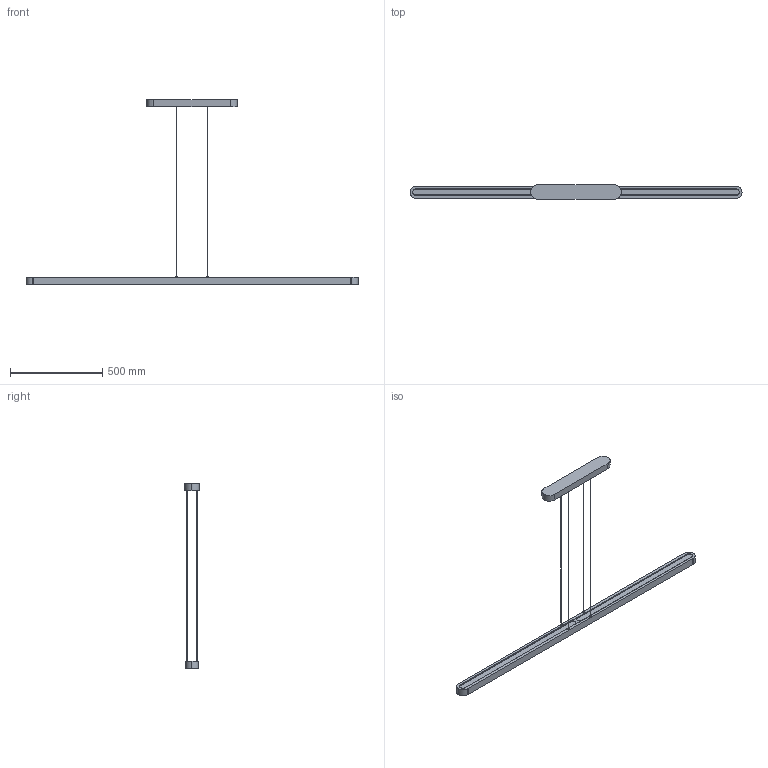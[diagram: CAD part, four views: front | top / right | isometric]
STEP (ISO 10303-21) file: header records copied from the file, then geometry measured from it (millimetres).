
FILE_DESCRIPTION(/* description */ (''),/* implementation_level */ '2;1');
FILE_NAME(/* name */ 'Talo_Sospensione_180_3D',/* time_stamp */ '2012-01-31T14:24:29+01:00',/* author */ (''),/* organization */ (''),/* preprocessor_version */ 'ST-DEVELOPER v10',/* originating_system */ '',/* authorisation */ '');
FILE_SCHEMA (('CONFIG_CONTROL_DESIGN'));
Length unit declared in the file: millimetre
Products named in the file (1): 1
Bounding box: 1795 x 78 x 1000 mm (x, y, z)
Volume: 4438610.9 mm3; surface area: 1050091.8 mm2
Topology: 5 solids, 5 shells, 130 faces, 326 edges, 216 vertices
Faces by surface type: bspline 76, plane 54
Entity records: 4256 total; most frequent: CARTESIAN_POINT 2214, ORIENTED_EDGE 652, EDGE_CURVE 326, VERTEX_POINT 216, B_SPLINE_CURVE_WITH_KNOTS 168, EDGE_LOOP 144, ADVANCED_FACE 130, FACE_OUTER_BOUND 130
